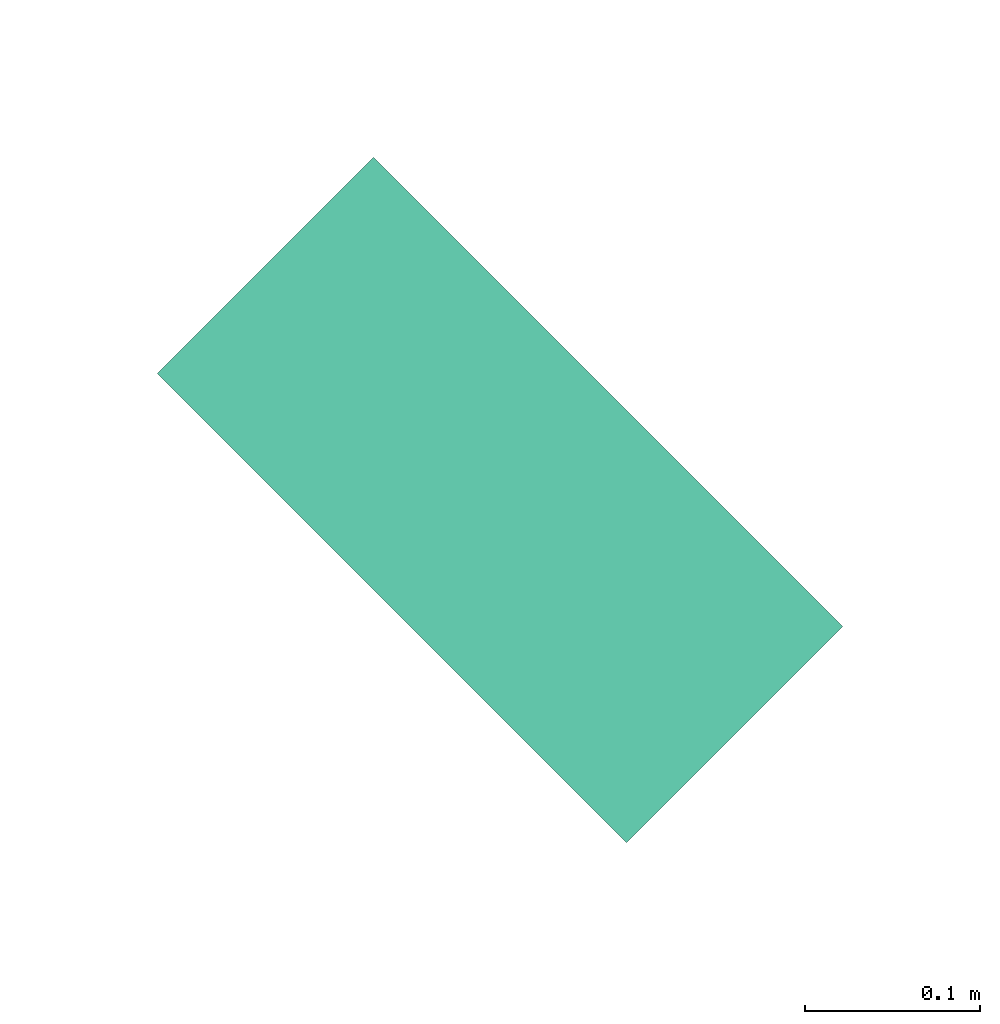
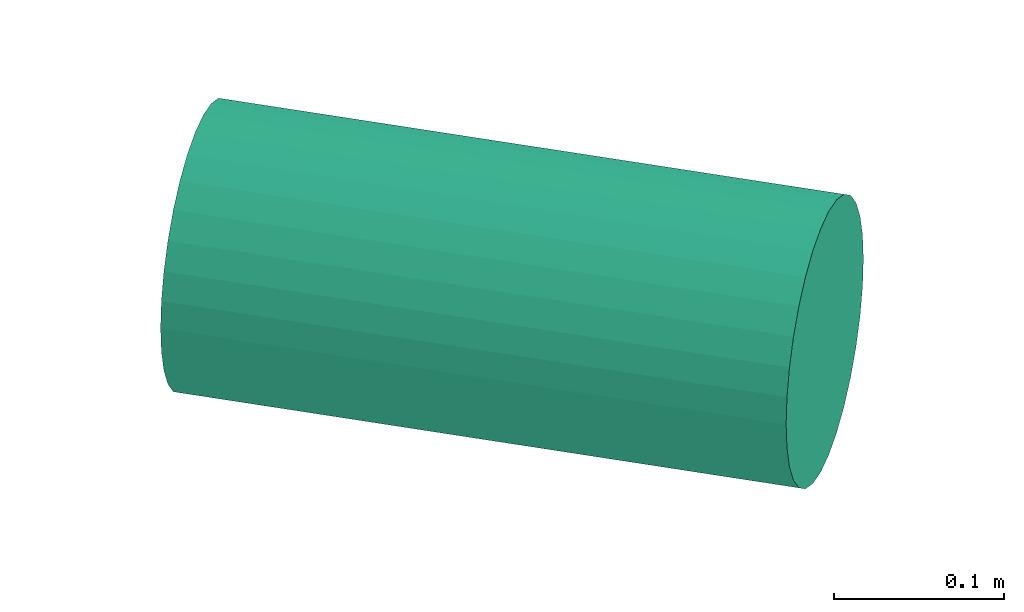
# One storey, part 2 of 9: 1 flow segment.
"""IFC2X3 building model written with IfcOpenShell, lengths in metres."""

from ifc_helpers import new_model, entity, si_unit, converted_unit, derived_unit, direction, frame, frame_2d, origin, place, context, subcontext, project, spatial, circle, extrude, type_object, element, save


model = new_model("IFC2X3")

# Units and contexts
model_context = context("Model", 3, precision=1e-05, world=origin(), true_north=direction((6.12303176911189e-17, 1.0)))
plan_context = context("Plan", 3, precision=1e-05, world=origin(), true_north=direction((6.12303176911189e-17, 1.0)))
body_context = subcontext(model_context, "Body", "Model", "MODEL_VIEW")
ifc_project = project(units=[si_unit("LENGTHUNIT", "METRE"), si_unit("AREAUNIT", "SQUARE_METRE"), si_unit("VOLUMEUNIT", "CUBIC_METRE"), converted_unit("PLANEANGLEUNIT", "DEGREE", entity("IfcRatioMeasure", 0.0174532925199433), si_unit("PLANEANGLEUNIT", "RADIAN"), dimensions=[0, 0, 0, 0, 0, 0, 0]), si_unit("MASSUNIT", "GRAM", prefix="KILO"), derived_unit("MASSDENSITYUNIT", [(si_unit("MASSUNIT", "GRAM", prefix="KILO"), 1), (si_unit("LENGTHUNIT", "METRE"), -3)]), derived_unit("MOMENTOFINERTIAUNIT", [(si_unit("LENGTHUNIT", "METRE"), 4)]), si_unit("TIMEUNIT", "SECOND"), si_unit("FREQUENCYUNIT", "HERTZ"), si_unit("THERMODYNAMICTEMPERATUREUNIT", "DEGREE_CELSIUS"), derived_unit("THERMALTRANSMITTANCEUNIT", [(si_unit("MASSUNIT", "GRAM", prefix="KILO"), 1), (si_unit("THERMODYNAMICTEMPERATUREUNIT", "KELVIN"), -1), (si_unit("TIMEUNIT", "SECOND"), -3)]), derived_unit("VOLUMETRICFLOWRATEUNIT", [(si_unit("LENGTHUNIT", "METRE"), 3), (si_unit("TIMEUNIT", "SECOND"), -1)]), derived_unit("MASSFLOWRATEUNIT", [(si_unit("MASSUNIT", "GRAM", prefix="KILO"), 1), (si_unit("TIMEUNIT", "SECOND"), -1)]), derived_unit("ROTATIONALFREQUENCYUNIT", [(si_unit("TIMEUNIT", "SECOND"), -1)]), si_unit("ELECTRICCURRENTUNIT", "AMPERE"), si_unit("ELECTRICVOLTAGEUNIT", "VOLT"), si_unit("POWERUNIT", "WATT"), si_unit("FORCEUNIT", "NEWTON", prefix="KILO"), si_unit("ILLUMINANCEUNIT", "LUX"), si_unit("LUMINOUSFLUXUNIT", "LUMEN"), si_unit("LUMINOUSINTENSITYUNIT", "CANDELA"), derived_unit("USERDEFINED", [(si_unit("MASSUNIT", "GRAM", prefix="KILO"), -1), (si_unit("LENGTHUNIT", "METRE"), -2), (si_unit("TIMEUNIT", "SECOND"), 3), (si_unit("LUMINOUSFLUXUNIT", "LUMEN"), 1)]), derived_unit("SOUNDPOWERUNIT", [(si_unit("MASSUNIT", "GRAM", prefix="KILO"), 1), (si_unit("LENGTHUNIT", "METRE"), 2), (si_unit("TIMEUNIT", "SECOND"), -3)]), derived_unit("SOUNDPRESSUREUNIT", [(si_unit("MASSUNIT", "GRAM", prefix="KILO"), 1), (si_unit("LENGTHUNIT", "METRE"), -1), (si_unit("TIMEUNIT", "SECOND"), -2)]), derived_unit("LINEARVELOCITYUNIT", [(si_unit("LENGTHUNIT", "METRE"), 1), (si_unit("TIMEUNIT", "SECOND"), -1)]), si_unit("PRESSUREUNIT", "PASCAL"), derived_unit("USERDEFINED", [(si_unit("LENGTHUNIT", "METRE"), -2), (si_unit("MASSUNIT", "GRAM", prefix="KILO"), 1), (si_unit("TIMEUNIT", "SECOND"), -2)]), derived_unit("LINEARFORCEUNIT", [(si_unit("MASSUNIT", "GRAM", prefix="KILO"), 1), (si_unit("LENGTHUNIT", "METRE"), 1), (si_unit("TIMEUNIT", "SECOND"), -2), (si_unit("LENGTHUNIT", "METRE"), -1)]), derived_unit("PLANARFORCEUNIT", [(si_unit("MASSUNIT", "GRAM", prefix="KILO"), 1), (si_unit("LENGTHUNIT", "METRE"), 1), (si_unit("TIMEUNIT", "SECOND"), -2), (si_unit("LENGTHUNIT", "METRE"), -2)])], contexts=[model_context, plan_context])

# Site, building, storey
site_placement = place(None, frame((-11.0823275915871, 23.8300534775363, 0.0)))
site = spatial("IfcSite", under=ifc_project, at=site_placement, Name="Default", CompositionType="ELEMENT")
building_placement = place(site_placement, origin())
building = spatial("IfcBuilding", under=site, at=building_placement, Name="Englische Kirche", CompositionType="ELEMENT")
storey_placement = place(building_placement, frame((0.0, 0.0, -3.07499999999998)))
storey = spatial("IfcBuildingStorey", under=building, at=storey_placement, Name="Ebene -1 Basement Phase 6", CompositionType="ELEMENT", Elevation=-3.07499999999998)

# Flow segment
pipe_segment_type = type_object("IfcPipeSegmentType", Name="Rohrtypen:Standard", PredefinedType="NOTDEFINED")
flow_segment_placement = place(storey_placement, origin())
element("IfcFlowSegment", 1, at=flow_segment_placement, inside=storey, type_object=pipe_segment_type, Name="Rohrtypen:Standard", ObjectType="Rohrtypen:Standard", context=body_context, shape_type="SweptSolid", body=[
    extrude(circle(Radius=0.08763, at=frame_2d((0.0, -6.76791955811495e-17), x_axis=(1.0, 0.0))), frame((21.9471231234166, 11.2656041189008, 2.74319999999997), z_axis=(0.707106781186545, -0.70710678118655, 0.0), x_axis=(-0.70710678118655, -0.707106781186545, 0.0)), (0.0, 0.0, 1.0), 0.379999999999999),
])

save(model, "model.ifc")
